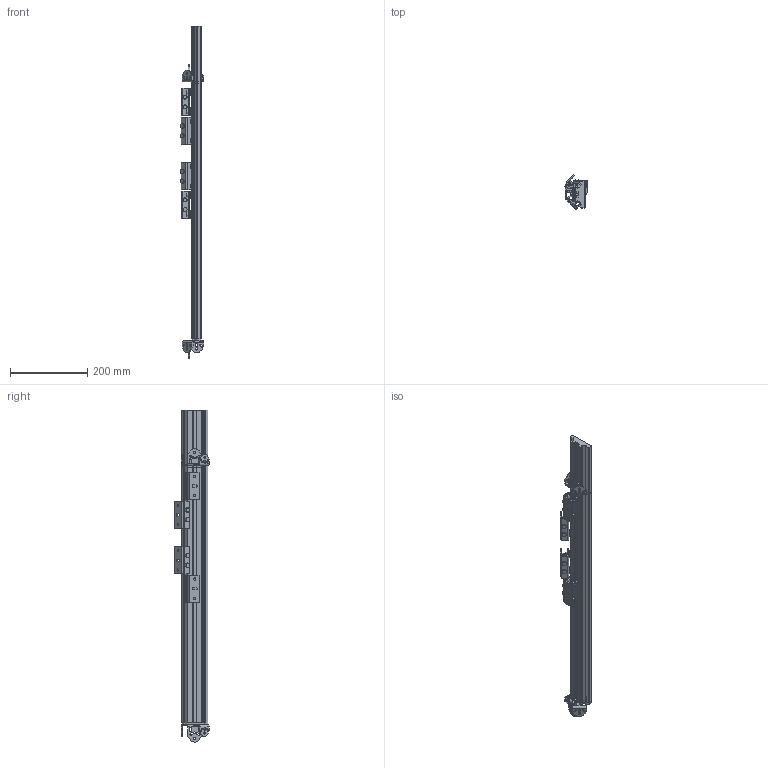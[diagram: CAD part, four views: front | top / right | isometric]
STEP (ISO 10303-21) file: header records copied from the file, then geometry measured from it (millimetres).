
FILE_DESCRIPTION((''),'2;1');
FILE_NAME('UM60-750.stp','2007-11-13T15:10:22',(''),(''),'Mechanical Desktop 2008','Mechanical Desktop 2008',', , ');
FILE_SCHEMA(('CONFIG_CONTROL_DESIGN'));
Length unit declared in the file: millimetre
Products named in the file (11): UM60-XXX; SCHWENKWINKEL; 347901-3D-; 347902-3D-; 347903-3D-; M6-GEWINDEBUCHSE; MESSING-BUCHSE; UM60-WINKEL; PROFIL-N; DECKEL_N; ~DECKEL_N
Assembly tree (20 placements, depth 3):
  UM60-XXX
    SCHWENKWINKEL  x4
      347901-3D-
      347902-3D-
      347903-3D-
      M6-GEWINDEBUCHSE
      MESSING-BUCHSE
    UM60-WINKEL  x6
    PROFIL-N
    DECKEL_N
    ~DECKEL_N
Bounding box: 59.88 x 89.1 x 860 mm (x, y, z)
Volume: 1058523.7 mm3; surface area: 326944.3 mm2
Topology: 37 solids, 37 shells, 780 faces, 2104 edges, 1424 vertices
Faces by surface type: cylinder 398, plane 382
Entity records: 9139 total; most frequent: CARTESIAN_POINT 1776, DIRECTION 1514, ORIENTED_EDGE 1468, EDGE_CURVE 734, VECTOR 510, LINE 510, AXIS2_PLACEMENT_3D 502, VERTEX_POINT 492
